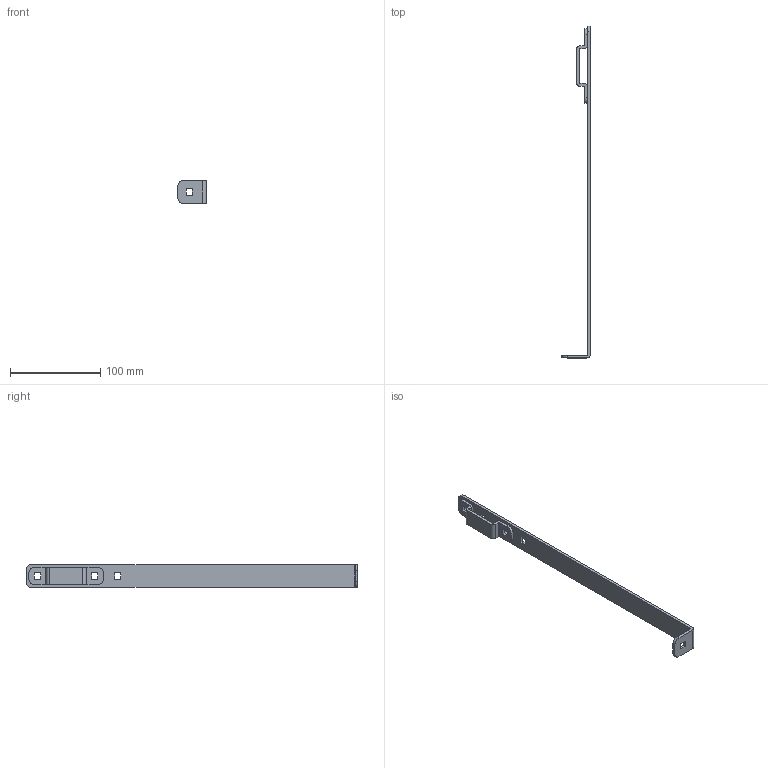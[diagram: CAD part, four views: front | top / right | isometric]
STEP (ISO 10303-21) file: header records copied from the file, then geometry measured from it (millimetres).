
FILE_DESCRIPTION (( 'STEP AP203' ), '1' );
FILE_NAME ('lek12.STEP', '2010-10-11T15:23:10', ( 'Hoffman User' ), ( 'Hoffman Enclosures' ), 'SwSTEP 2.0', 'SolidWorks 2009', '' );
FILE_SCHEMA (( 'CONFIG_CONTROL_DESIGN' ));
Length unit declared in the file: inch
Products named in the file (3): ElevationBracket_12inRunway; lek12; strap
Assembly tree (2 placements, depth 2):
  lek12
    strap
    ElevationBracket_12inRunway
Bounding box: 31.62 x 368.3 x 25.4 mm (x, y, z)
Volume: 35077.3 mm3; surface area: 26812.1 mm2
Topology: 2 solids, 2 shells, 68 faces, 192 edges, 128 vertices
Faces by surface type: plane 50, cylinder 18
Entity records: 2531 total; most frequent: CARTESIAN_POINT 393, ORIENTED_EDGE 384, DIRECTION 374, EDGE_CURVE 192, VECTOR 156, LINE 156, VERTEX_POINT 128, AXIS2_PLACEMENT_3D 109
